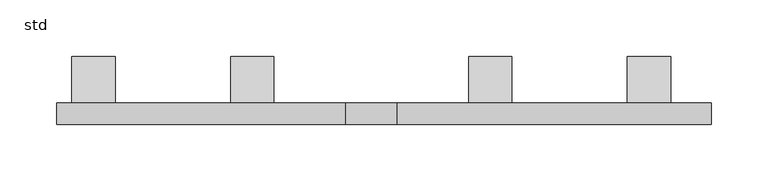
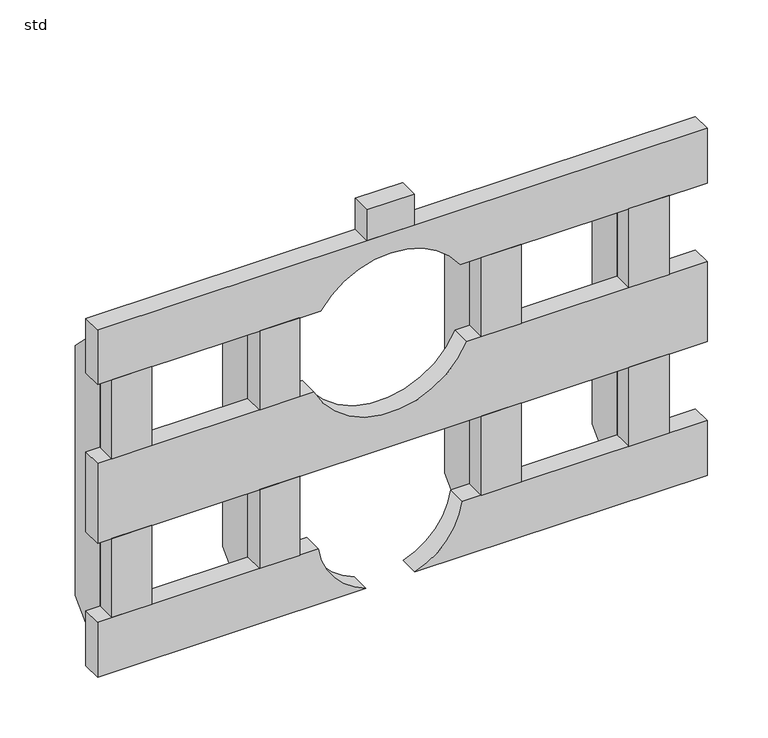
"""IFC4 building model written with IfcOpenShell, lengths in millimetres: unitary equipment geometry, Z_ME_UN_Aquacell_NG_Lateral_Side_Plate_Wavin_(nested) : std."""

from ifc_helpers import new_model, si_unit, frame, origin, place, context, project, spatial, polyline, circle_curve, outline, extrude, source, transform, mapped, element, save
from ifc_brep_helpers import plane_surface, revolved_surface, advanced_brep


def std_4ac17607(model_context):
    return source(origin(), model_context, "Body", "SolidModel", [
        extrude(outline(polyline([(214.0, 0.0), (176.0, 0.0), (176.0, 19.0), (214.0, 19.0), (214.0, 0.0)])), frame((0.0, 0.0, 90.0), z_axis=(0.0, 0.0, 1.0), x_axis=(1.0, 0.0, 0.0)), (0.0, 0.0, 1.0), 79.0),
        extrude(outline(polyline([(214.0, 0.0), (176.0, 0.0), (176.0, 19.0), (214.0, 19.0), (214.0, 0.0)])), frame((0.0, 0.0, 249.0), z_axis=(0.0, 0.0, 1.0), x_axis=(1.0, 0.0, 0.0)), (0.0, 0.0, 1.0), 79.0),
        extrude(outline(polyline([(424.0, 0.0), (386.0, 0.0), (386.0, 19.0), (424.0, 19.0), (424.0, 0.0)])), frame((0.0, 0.0, 90.0), z_axis=(0.0, 0.0, 1.0), x_axis=(1.0, 0.0, 0.0)), (0.0, 0.0, 1.0), 79.0),
        extrude(outline(polyline([(424.0, 0.0), (386.0, 0.0), (386.0, 19.0), (424.0, 19.0), (424.0, 0.0)])), frame((0.0, 0.0, 249.0), z_axis=(0.0, 0.0, 1.0), x_axis=(1.0, 0.0, 0.0)), (0.0, 0.0, 1.0), 79.0),
        extrude(outline(polyline([(19.0, 35.0), (19.0, 367.0), (60.0, 326.0), (60.0, 76.0), (19.0, 35.0)])), frame((526.0, 0.0, 0.0), z_axis=(1.0, 0.0, 0.0), x_axis=(0.0, 1.0, 0.0)), (0.0, 0.0, 1.0), 38.0),
        extrude(outline(polyline([(19.0, 35.0), (19.0, 367.0), (60.0, 326.0), (60.0, 76.0), (19.0, 35.0)])), frame((386.0, 0.0, 0.0), z_axis=(1.0, 0.0, 0.0), x_axis=(0.0, 1.0, 0.0)), (0.0, 0.0, 1.0), 38.0),
        extrude(outline(polyline([(19.0, 35.0), (19.0, 367.0), (60.0, 326.0), (60.0, 76.0), (19.0, 35.0)])), frame((176.0, 0.0, 0.0), z_axis=(1.0, 0.0, 0.0), x_axis=(0.0, 1.0, 0.0)), (0.0, 0.0, 1.0), 38.0),
        extrude(outline(polyline([(19.0, 35.0), (19.0, 367.0), (60.0, 326.0), (60.0, 76.0), (19.0, 35.0)])), frame((36.0, 0.0, 0.0), z_axis=(1.0, 0.0, 0.0), x_axis=(0.0, 1.0, 0.0)), (0.0, 0.0, 1.0), 38.0),
        extrude(outline(polyline([(564.0, 0.0), (526.0, 0.0), (526.0, 19.0), (564.0, 19.0), (564.0, 0.0)])), frame((0.0, 0.0, 90.0), z_axis=(0.0, 0.0, 1.0), x_axis=(1.0, 0.0, 0.0)), (0.0, 0.0, 1.0), 79.0),
        extrude(outline(polyline([(564.0, 0.0), (526.0, 0.0), (526.0, 19.0), (564.0, 19.0), (564.0, 0.0)])), frame((0.0, 0.0, 249.0), z_axis=(0.0, 0.0, 1.0), x_axis=(1.0, 0.0, 0.0)), (0.0, 0.0, 1.0), 79.0),
        extrude(outline(polyline([(74.0, 0.0), (36.0, 0.0), (36.0, 19.0), (74.0, 19.0), (74.0, 0.0)])), frame((0.0, 0.0, 90.0), z_axis=(0.0, 0.0, 1.0), x_axis=(1.0, 0.0, 0.0)), (0.0, 0.0, 1.0), 79.0),
        extrude(outline(polyline([(74.0, 0.0), (36.0, 0.0), (36.0, 19.0), (74.0, 19.0), (74.0, 0.0)])), frame((0.0, 0.0, 249.0), z_axis=(0.0, 0.0, 1.0), x_axis=(1.0, 0.0, 0.0)), (0.0, 0.0, 1.0), 79.0),
        extrude(outline(polyline([(322.5, 19.0), (322.5, 0.0), (277.5, 0.0), (277.5, 19.0), (322.5, 19.0)])), frame((0.0, 0.0, 383.0), z_axis=(0.0, 0.0, 1.0), x_axis=(1.0, 0.0, 0.0)), (0.0, 0.0, 1.0), 31.0),
        advanced_brep(
        [(600.0, 19.0, 383.0), (600.0, 19.0, 328.0), (366.1437828, 19.0, 328.0), (233.8562172, 19.0, 328.0), (22.5, 19.0, 328.0), (22.5, 19.0, 383.0), (600.0, 0.0, 383.0), (22.5, 0.0, 383.0), (22.5, 0.0, 328.0), (233.8562172, 0.0, 328.0), (366.1437828, 0.0, 328.0), (600.0, 0.0, 328.0)],
        [
            (0, 1),
            (1, 2),
            (2, 3, circle_curve(frame((300.0, 19.0, 283.0), z_axis=(0.0, -1.0, 0.0), x_axis=(1.0, 0.0, 0.0)), 80.0)),
            (3, 4),
            (4, 5),
            (5, 0),
            (6, 7),
            (7, 8),
            (8, 9),
            (9, 10, circle_curve(frame((300.0, 0.0, 283.0), z_axis=(0.0, 1.0, 0.0), x_axis=(1.0, 0.0, 0.0)), 80.0)),
            (10, 11),
            (11, 6),
            (5, 7),
            (6, 0),
            (8, 4),
            (3, 9),
            (1, 11),
            (10, 2),
        ],
        [
            plane_surface(frame((22.5, 19.0, 90.0), z_axis=(0.0, 1.0, 0.0), x_axis=(1.0, 0.0, 0.0))),
            plane_surface(frame((22.5, 0.0, 90.0), z_axis=(0.0, -1.0, 0.0), x_axis=(-1.0, 0.0, 0.0))),
            plane_surface(frame((600.0, 0.0, 383.0), z_axis=(0.0, 0.0, 1.0), x_axis=(0.0, 1.0, 0.0))),
            plane_surface(frame((22.5, 0.0, 328.0), z_axis=(0.0, 0.0, -1.0), x_axis=(0.0, 1.0, 0.0))),
            plane_surface(frame((22.5, 0.0, 383.0), z_axis=(-1.0, 0.0, 0.0), x_axis=(0.0, 1.0, 0.0))),
            plane_surface(frame((600.0, 0.0, 328.0), z_axis=(1.0, 0.0, 0.0), x_axis=(0.0, 1.0, 0.0))),
            revolved_surface(polyline([(380.0, 0.0, 283.0), (380.0, 19.0, 283.0)]), (300.0, 19.0, 283.0), (0.0, -1.0, 0.0)),
        ],
        [
            (0, [[1, 2, 3, 4, 5, 6]]),
            (1, [[7, 8, 9, 10, 11, 12]]),
            (2, [[-6, 13, -7, 14]]),
            (3, [[15, -4, 16, -9]]),
            (3, [[17, -11, 18, -2]]),
            (4, [[-5, -15, -8, -13]]),
            (5, [[-1, -14, -12, -17]]),
            (6, [[-3, -18, -10, -16]]),
        ],
    ),
        advanced_brep(
        [(600.0, 19.0, 90.0), (600.0, 19.0, 35.0), (323.1516738, 19.0, 35.0), (368.2715168, 19.0, 90.0), (600.0, 0.0, 35.0), (600.0, 0.0, 90.0), (368.2715168, 0.0, 90.0), (323.1516738, 0.0, 35.0)],
        [
            (0, 1),
            (1, 2),
            (2, 3, circle_curve(frame((300.0, 19.0, 100.0), z_axis=(0.0, -1.0, 0.0), x_axis=(1.0, 0.0, 0.0)), 69.0)),
            (3, 0),
            (4, 5),
            (5, 6),
            (6, 7, circle_curve(frame((300.0, 0.0, 100.0), z_axis=(0.0, 1.0, 0.0), x_axis=(1.0, 0.0, 0.0)), 69.0)),
            (7, 4),
            (5, 0),
            (3, 6),
            (1, 4),
            (7, 2),
        ],
        [
            plane_surface(frame((22.5, 19.0, 90.0), z_axis=(0.0, 1.0, 0.0), x_axis=(1.0, 0.0, 0.0))),
            plane_surface(frame((22.5, 0.0, 90.0), z_axis=(0.0, -1.0, 0.0), x_axis=(-1.0, 0.0, 0.0))),
            plane_surface(frame((600.0, 0.0, 90.0), z_axis=(0.0, 0.0, 1.0), x_axis=(0.0, 1.0, 0.0))),
            plane_surface(frame((22.5, 0.0, 35.0), z_axis=(0.0, 0.0, -1.0), x_axis=(0.0, 1.0, 0.0))),
            plane_surface(frame((600.0, 0.0, 35.0), z_axis=(1.0, 0.0, 0.0), x_axis=(0.0, 1.0, 0.0))),
            revolved_surface(polyline([(369.0, 0.0, 100.0), (369.0, 19.0, 100.0)]), (300.0, 19.0, 100.0), (0.0, -1.0, 0.0)),
        ],
        [
            (0, [[1, 2, 3, 4]]),
            (1, [[5, 6, 7, 8]]),
            (2, [[9, -4, 10, -6]]),
            (3, [[11, -8, 12, -2]]),
            (4, [[-1, -9, -5, -11]]),
            (5, [[-3, -12, -7, -10]]),
        ],
    ),
        advanced_brep(
        [(22.5, 19.0, 35.0), (22.5, 19.0, 90.0), (231.7284832, 19.0, 90.0), (276.8483262, 19.0, 35.0), (22.5, 0.0, 90.0), (22.5, 0.0, 35.0), (276.8483262, 0.0, 35.0), (231.7284832, 0.0, 90.0)],
        [
            (0, 1),
            (1, 2),
            (2, 3, circle_curve(frame((300.0, 19.0, 100.0), z_axis=(0.0, -1.0, 0.0), x_axis=(1.0, 0.0, 0.0)), 69.0)),
            (3, 0),
            (4, 5),
            (5, 6),
            (6, 7, circle_curve(frame((300.0, 0.0, 100.0), z_axis=(0.0, 1.0, 0.0), x_axis=(1.0, 0.0, 0.0)), 69.0)),
            (7, 4),
            (1, 4),
            (7, 2),
            (5, 0),
            (3, 6),
        ],
        [
            plane_surface(frame((22.5, 19.0, 90.0), z_axis=(0.0, 1.0, 0.0), x_axis=(1.0, 0.0, 0.0))),
            plane_surface(frame((22.5, 0.0, 90.0), z_axis=(0.0, -1.0, 0.0), x_axis=(-1.0, 0.0, 0.0))),
            plane_surface(frame((600.0, 0.0, 90.0), z_axis=(0.0, 0.0, 1.0), x_axis=(0.0, 1.0, 0.0))),
            plane_surface(frame((22.5, 0.0, 35.0), z_axis=(0.0, 0.0, -1.0), x_axis=(0.0, 1.0, 0.0))),
            plane_surface(frame((22.5, 0.0, 90.0), z_axis=(-1.0, 0.0, 0.0), x_axis=(0.0, 1.0, 0.0))),
            revolved_surface(polyline([(369.0, 0.0, 100.0), (369.0, 19.0, 100.0)]), (300.0, 19.0, 100.0), (0.0, -1.0, 0.0)),
        ],
        [
            (0, [[1, 2, 3, 4]]),
            (1, [[5, 6, 7, 8]]),
            (2, [[9, -8, 10, -2]]),
            (3, [[11, -4, 12, -6]]),
            (4, [[-1, -11, -5, -9]]),
            (5, [[-3, -10, -7, -12]]),
        ],
    ),
        advanced_brep(
        [(600.0, 19.0, 249.0), (600.0, 19.0, 169.0), (300.0, 19.0, 169.0), (22.5, 19.0, 169.0), (22.5, 19.0, 249.0), (227.584532, 19.0, 249.0), (372.415468, 19.0, 249.0), (22.5, 0.0, 249.0), (22.5, 0.0, 169.0), (300.0, 0.0, 169.0), (600.0, 0.0, 169.0), (600.0, 0.0, 249.0), (372.415468, 0.0, 249.0), (227.584532, 0.0, 249.0)],
        [
            (0, 1),
            (1, 2),
            (2, 3),
            (3, 4),
            (4, 5),
            (5, 6, circle_curve(frame((300.0, 19.0, 283.0), z_axis=(0.0, -1.0, 0.0), x_axis=(1.0, 0.0, 0.0)), 80.0)),
            (6, 0),
            (7, 8),
            (8, 9),
            (9, 10),
            (10, 11),
            (11, 12),
            (12, 13, circle_curve(frame((300.0, 0.0, 283.0), z_axis=(0.0, 1.0, 0.0), x_axis=(1.0, 0.0, 0.0)), 80.0)),
            (13, 7),
            (11, 0),
            (6, 12),
            (4, 7),
            (13, 5),
            (8, 3),
            (1, 10),
        ],
        [
            plane_surface(frame((22.5, 19.0, 90.0), z_axis=(0.0, 1.0, 0.0), x_axis=(1.0, 0.0, 0.0))),
            plane_surface(frame((22.5, 0.0, 90.0), z_axis=(0.0, -1.0, 0.0), x_axis=(-1.0, 0.0, 0.0))),
            plane_surface(frame((600.0, 0.0, 249.0), z_axis=(0.0, 0.0, 1.0), x_axis=(0.0, 1.0, 0.0))),
            plane_surface(frame((22.5, 0.0, 169.0), z_axis=(0.0, 0.0, -1.0), x_axis=(0.0, 1.0, 0.0))),
            plane_surface(frame((22.5, 0.0, 249.0), z_axis=(-1.0, 0.0, 0.0), x_axis=(0.0, 1.0, 0.0))),
            plane_surface(frame((600.0, 0.0, 169.0), z_axis=(1.0, 0.0, 0.0), x_axis=(0.0, 1.0, 0.0))),
            revolved_surface(polyline([(380.0, 0.0, 283.0), (380.0, 19.0, 283.0)]), (300.0, 19.0, 283.0), (0.0, -1.0, 0.0)),
        ],
        [
            (0, [[1, 2, 3, 4, 5, 6, 7]]),
            (1, [[8, 9, 10, 11, 12, 13, 14]]),
            (2, [[15, -7, 16, -12]]),
            (2, [[17, -14, 18, -5]]),
            (3, [[19, -3, -2, 20, -10, -9]]),
            (4, [[-4, -19, -8, -17]]),
            (5, [[-1, -15, -11, -20]]),
            (6, [[-6, -18, -13, -16]]),
        ],
    ),
    ])


if __name__ == "__main__":
    model = new_model("IFC4")
    model_context = context("Model", 3, world=origin())
    ifc_project = project(units=[si_unit("LENGTHUNIT", "METRE", prefix="MILLI")], contexts=[model_context])
    site = spatial("IfcSite", under=ifc_project)
    building = spatial("IfcBuilding", under=site)
    placement = place(None, origin())
    std_shape = std_4ac17607(model_context)
    element("IfcUnitaryEquipment", 1, ObjectType="Z_ME_UN_Aquacell_NG_Lateral_Side_Plate_Wavin_(nested) : std", at=placement, inside=building, context=model_context, shape_type="MappedRepresentation", body=[
        mapped(std_shape, transform((0.0, 0.0, 0.0), x_axis=(1.0, 0.0, 0.0), y_axis=(0.0, 1.0, 0.0), z_axis=(0.0, 0.0, 1.0))),
    ])
    save(model, "model.ifc")
